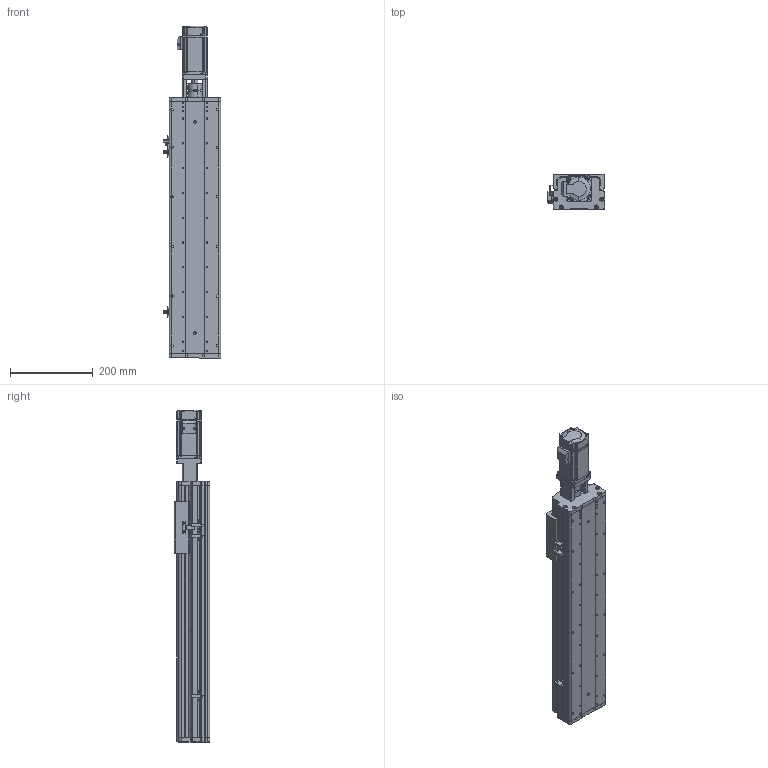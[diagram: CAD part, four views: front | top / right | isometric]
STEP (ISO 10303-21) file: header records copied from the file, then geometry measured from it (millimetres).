
FILE_DESCRIPTION (( 'STEP AP214' ), '1' );
FILE_NAME ('KSD125S-S400-MT-CM.STEP', '2017-08-07T06:39:52', ( '微软用户' ), ( '微软中国' ), 'SwSTEP 2.0', 'SolidWorks 2014', '' );
FILE_SCHEMA (( 'AUTOMOTIVE_DESIGN' ));
Length unit declared in the file: millimetre
Products named in the file (13): KSD125S-400俴最佪裝菁啣; MHMD042G1CA_2_03; 100遵鎮湛假蚾啣1 ; 拸萇儂釱滅袉菜; 覜茼え68遵圉猾敕; U倰嫖萇假蚾璃; U倰嫖萇EEㄜSX672; ヶ傷啣-125遵耀郪; KSD125-賑雄釱1; CS-34X32-10X14; KSD125S-400俴最佪裝滅鳥裔; 125-帣傷啣1; KSD125S-S400-MT-CM
Assembly tree (16 placements, depth 2):
  KSD125S-S400-MT-CM
    125-帣傷啣1
    CS-34X32-10X14
    KSD125-賑雄釱1
    ヶ傷啣-125遵耀郪
    U倰嫖萇EEㄜSX672  x3
    U倰嫖萇假蚾璃  x3
    覜茼え68遵圉猾敕
    拸萇儂釱滅袉菜
    100遵鎮湛假蚾啣1 
    KSD125S-400俴最佪裝菁啣
    KSD125S-400俴最佪裝滅鳥裔
    MHMD042G1CA_2_03
Bounding box: 138.7 x 86 x 803.5 mm (x, y, z)
Volume: 2302803.8 mm3; surface area: 773447.7 mm2
Topology: 15 solids, 18 shells, 1514 faces, 4364 edges, 2871 vertices
Faces by surface type: cylinder 762, plane 639, cone 91, bspline 22
Entity records: 53197 total; most frequent: CARTESIAN_POINT 11220, DIRECTION 7622, ORIENTED_EDGE 7236, EDGE_CURVE 3696, AXIS2_PLACEMENT_3D 2807, VERTEX_POINT 2463, VECTOR 2008, LINE 2008
